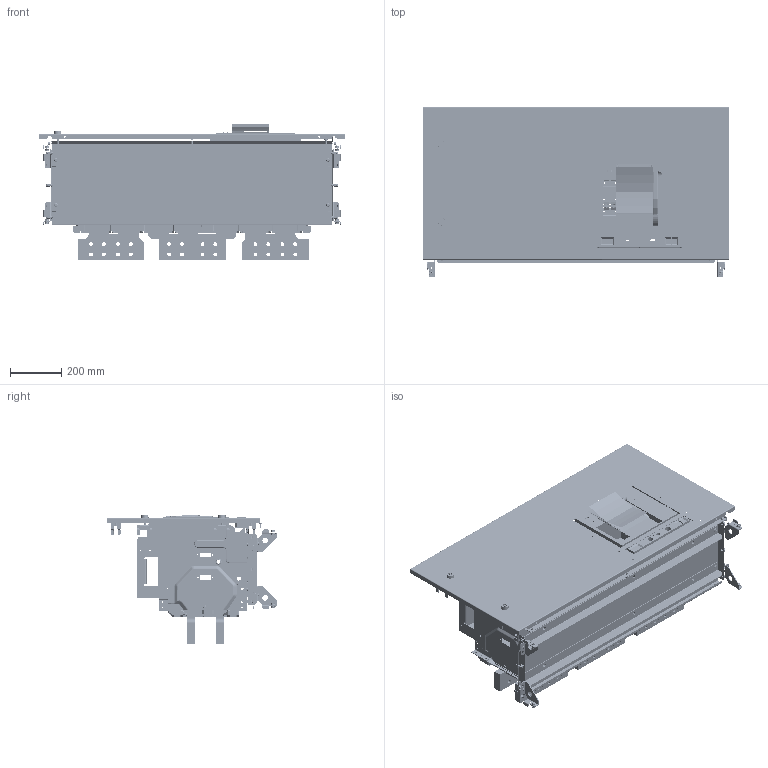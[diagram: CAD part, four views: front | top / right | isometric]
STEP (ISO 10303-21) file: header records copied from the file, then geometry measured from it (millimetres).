
FILE_DESCRIPTION(('CAx-IF Rec.Pracs.---Model Styling and Organization---1.2---2011-12-15','CAx-IF Rec.Pracs.---Geometric and Assembly Validation Properties---4.1---2014-06-16','CAx-IF Rec.Pracs.---PMI Polyline Presentation---2.0---2013-05-24'),'2;1');
FILE_NAME('R5PKEB7V121527.stp','2021-07-29T02:58:36+03:00',(''),(''),'STEP Interface 4.4 by CT CoreTechnologie','3D_Evolution4.4 by CT CoreTechnologie','');
FILE_SCHEMA(('AUTOMOTIVE_DESIGN { 1 0 10303 214 1 1 1 1 }'));
Length unit declared in the file: millimetre
Products named in the file (1): R5PKEB7V121527
Bounding box: 1194 x 662.5 x 525.9 mm (x, y, z)
Surface area: 8111718.1 mm2 (no closed solid volume)
Topology: 0 solids, 175 shells, 9441 faces, 25844 edges, 16323 vertices
Faces by surface type: plane 4835, cylinder 3415, bspline 1191
Entity records: 328461 total; most frequent: CARTESIAN_POINT 89589, ORIENTED_EDGE 50987, DIRECTION 48429, EDGE_CURVE 25565, VECTOR 16933, LINE 16933, VERTEX_POINT 16321, AXIS2_PLACEMENT_3D 15748
